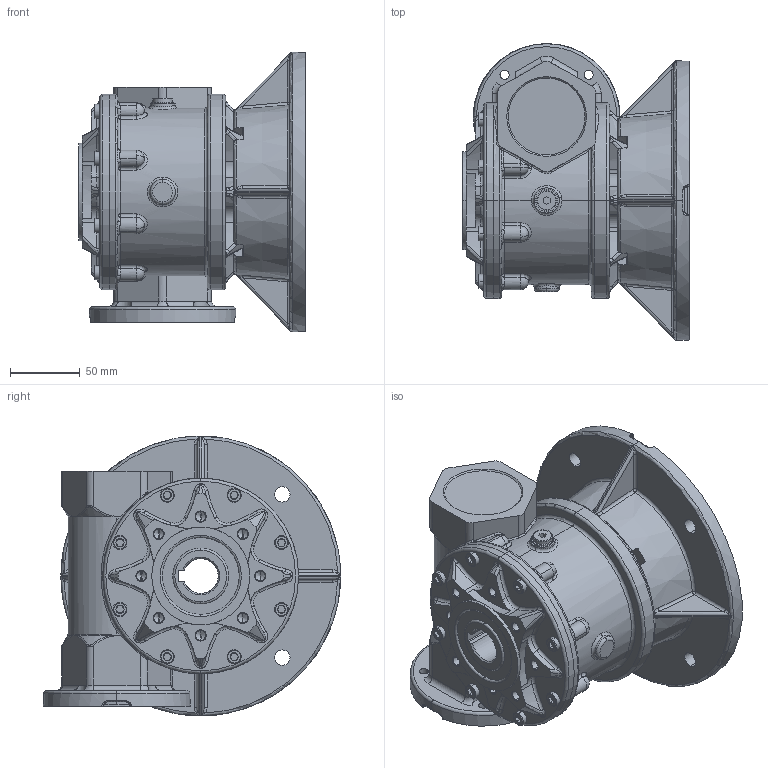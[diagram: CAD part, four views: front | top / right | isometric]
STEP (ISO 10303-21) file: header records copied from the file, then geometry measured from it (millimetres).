
FILE_DESCRIPTION (( 'STEP AP214' ), '1' );
FILE_NAME ('mrt60a-ffl-71-85.step', '2011-10-12T10:26:47', ( '' ), ( '' ), 'SwSTEP 2.0', 'SolidWorks 2010', '' );
FILE_SCHEMA (( 'AUTOMOTIVE_DESIGN' ));
Length unit declared in the file: millimetre
Products named in the file (6): MRT60A_MRT60A-AP71; pøíruba d55 MRT60a_pøíruba 70-85-105; Adaptér FF60; Šroub DIN 6912_Šroub DIN 6912 - M6x20; Sroub DIN 6912_M8x20; mrt60a-ffl-71-85
Assembly tree (13 placements, depth 2):
  mrt60a-ffl-71-85
    Sroub DIN 6912_M8x20  x4
    Šroub DIN 6912_Šroub DIN 6912 - M6x20  x6
    MRT60A_MRT60A-AP71
    pøíruba d55 MRT60a_pøíruba 70-85-105
    Adaptér FF60
Bounding box: 162 x 212.5 x 200 mm (x, y, z)
Volume: 1989235.3 mm3; surface area: 267276.4 mm2
Topology: 13 solids, 15 shells, 1903 faces, 4462 edges, 2568 vertices
Faces by surface type: cylinder 456, plane 402, cone 398, torus 369, bspline 248, sphere 30
Entity records: 99075 total; most frequent: CARTESIAN_POINT 58964, DIRECTION 7777, ORIENTED_EDGE 7678, EDGE_CURVE 3839, AXIS2_PLACEMENT_3D 3408, VERTEX_POINT 2296, CIRCLE 2018, EDGE_LOOP 1729
